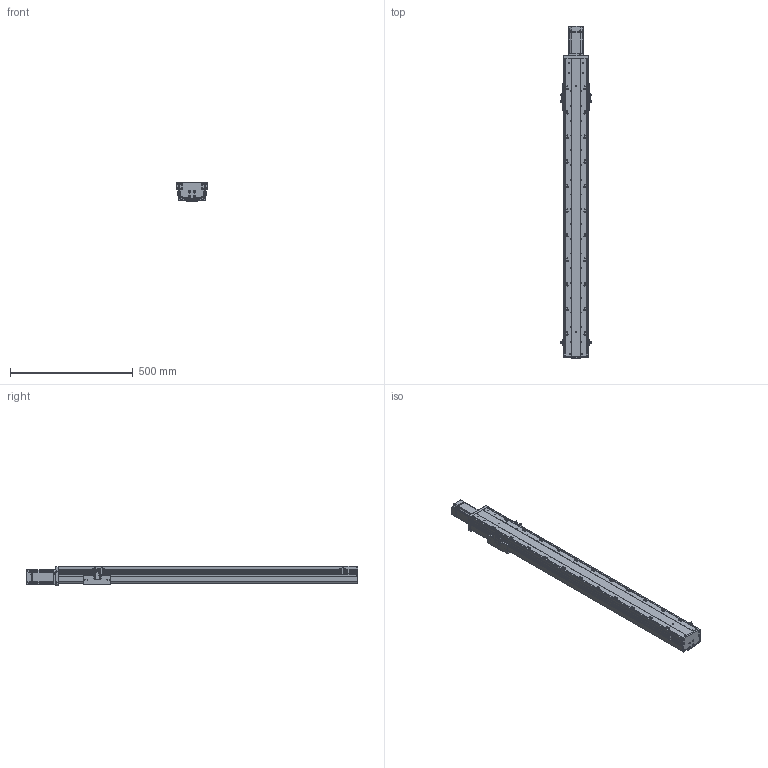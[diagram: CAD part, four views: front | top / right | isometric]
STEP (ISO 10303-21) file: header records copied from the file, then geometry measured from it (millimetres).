
FILE_DESCRIPTION (( 'STEP AP203' ), '1' );
FILE_NAME ('RY100FBS-L1610-300-MK(15双轨）.SLDASM_950.step', '2022-06-22T07:42:00', ( '' ), ( '' ), 'SwSTEP 2.0', 'SolidWorks 2016', '' );
FILE_SCHEMA (( 'CONFIG_CONTROL_DESIGN' ));
Length unit declared in the file: millimetre
Products named in the file (12): RY100FBS-后盖板(15双轨）; 侂狟400W侜督萇儂; RY100FBS-铝滑块（16丝杆）; 滅袉蝶18-24; 15; 滅袉蝶18-15; RY100FBS-前盖板(15双轨）; RY100FBS-300-上盖板(15双轨）_950; 覜茼ん672; RY100FBS-300型材底座(15双轨）_950; RY100FBS-L1610-300-MK(15双轨）.SLDASM_950; RY100FB-遵嫖萇覜茼え
Assembly tree (18 placements, depth 3):
  RY100FBS-L1610-300-MK(15双轨）.SLDASM_950
    RY100FBS-300型材底座(15双轨）_950
    滅袉蝶18-24  x2
    滅袉蝶18-15
    RY100FBS-铝滑块（16丝杆）
    RY100FBS-300-上盖板(15双轨）_950
    RY100FBS-前盖板(15双轨）
    RY100FBS-后盖板(15双轨）
    侂狟400W侜督萇儂
      15
    RY100FB-遵嫖萇覜茼え  x2
    覜茼ん672  x6
Bounding box: 127.4 x 1350.5 x 78.75 mm (x, y, z)
Volume: 3012511.2 mm3; surface area: 1082811 mm2
Topology: 17 solids, 17 shells, 1871 faces, 5371 edges, 3524 vertices
Faces by surface type: plane 885, cylinder 854, cone 114, bspline 18
Entity records: 50588 total; most frequent: CARTESIAN_POINT 10595, DIRECTION 8182, ORIENTED_EDGE 8086, EDGE_CURVE 4043, AXIS2_PLACEMENT_3D 2981, VERTEX_POINT 2672, LINE 2220, VECTOR 2220
